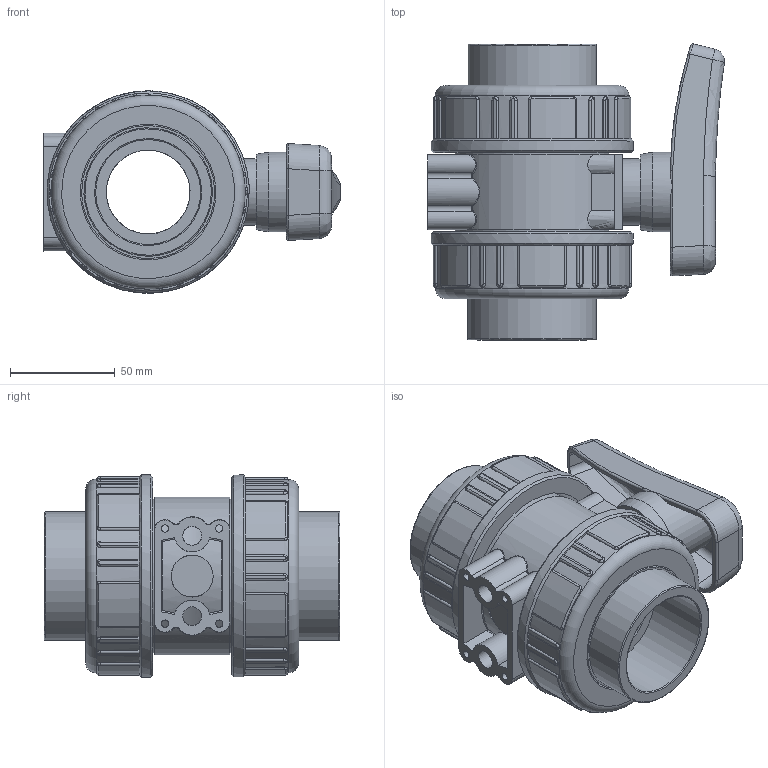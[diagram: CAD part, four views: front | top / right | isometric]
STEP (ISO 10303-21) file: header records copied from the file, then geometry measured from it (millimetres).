
FILE_DESCRIPTION(/* description */ (''),/* implementation_level */ '2;1');
FILE_NAME(/* name */ 'C:\Users\POLYPIPE\Desktop\DATASET INVENTOR\LIBRERIA EFFAST\3D_VALVOLE\3D_VALVOLE A SFERA\3D_BK1\3D_BDRBK1D\3D_BDRBK1D0500.stp',/* time_stamp */ '2018-01-23T15:33:25+01:00',/* author */ ('POLYPIPE'),/* organization */ (''),/* preprocessor_version */ 'ST-DEVELOPER v16.1',/* originating_system */ 'Autodesk Inventor 2016',/* authorisation */ '');
FILE_SCHEMA (('CONFIG_CONTROL_DESIGN'));
Products named in the file (1): 3D_BDRBK1D0500
Bounding box: 141.54 x 141.16 x 96.45 mm (x, y, z)
Volume: 550405.5 mm3; surface area: 136009.9 mm2
Topology: 1 solids, 1 shells, 622 faces, 1519 edges, 933 vertices
Faces by surface type: cylinder 209, plane 202, bspline 179, torus 23, cone 5, sphere 4
Full cylindrical faces by diameter (mm): 3.1 x4, 3.5 x4, 9 x2, 20 x1, 31.8 x1, 38 x1, 39.9 x1, 40 x2, 50 x2, 60.9 x1, 61.3 x2, 63.4 x2, 64.7 x2, 71.9 x2, 73.3 x2, 78.5 x2, 92.5 x2, 96.5 x2
Entity records: 63530 total; most frequent: CARTESIAN_POINT 49308, ORIENTED_EDGE 2902, DIRECTION 2593, EDGE_CURVE 1451, AXIS2_PLACEMENT_3D 1002, VERTEX_POINT 912, EDGE_LOOP 707, STYLED_ITEM 623
